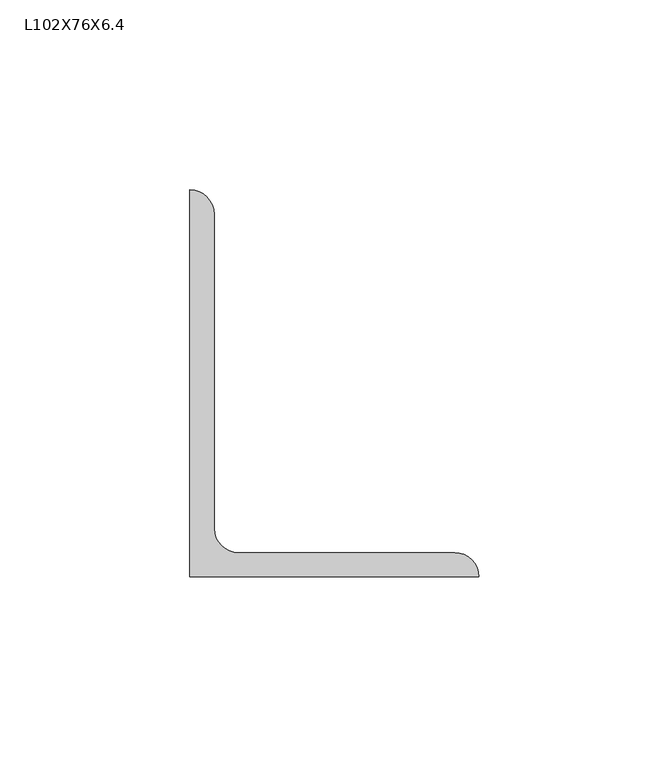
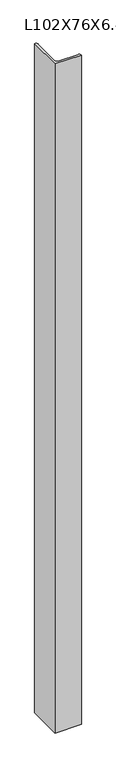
"""IFC4 building model written with IfcOpenShell, lengths in millimetres: column geometry, Уголок-Колонна : L102X76X6.4."""

from ifc_helpers import new_model, si_unit, point, frame_2d, origin, origin_with_axes, place, context, project, spatial, polyline, circle_curve, trimmed, segment, composite_curve, outline, extrude, source, transform, mapped, element, save


def l102x76x6_4_f19e9d96(model_context):
    return source(origin(), model_context, "Body", "SweptSolid", [
        extrude(outline(composite_curve([segment(polyline([(57.8, -31.0), (-18.4, -31.0), (-18.4, 71.0)]), True, "CONTINUOUS"), segment(trimmed(circle_curve(frame_2d((-18.4, 64.6)), 6.4), [point((-18.4, 71.0))], [point((-12.0, 64.6))], False, "CARTESIAN"), True, "CONTINUOUS"), segment(polyline([(-12.0, 64.6), (-12.0, -18.2)]), True, "CONTINUOUS"), segment(trimmed(circle_curve(frame_2d((-5.6, -18.2)), 6.4), [point((-12.0, -18.2))], [point((-5.6, -24.6))], True, "CARTESIAN"), True, "CONTINUOUS"), segment(polyline([(-5.6, -24.6), (51.4, -24.6)]), True, "CONTINUOUS"), segment(trimmed(circle_curve(frame_2d((51.4, -31.0)), 6.4), [point((51.4, -24.6))], [point((57.8, -31.0))], False, "CARTESIAN"), True, "CONTINUOUS")], self_intersect=False)), origin_with_axes(), (0.0, 0.0, 1.0), 2048.0),
    ])


if __name__ == "__main__":
    model = new_model("IFC4")
    model_context = context("Model", 3, world=origin())
    ifc_project = project(units=[si_unit("LENGTHUNIT", "METRE", prefix="MILLI")], contexts=[model_context])
    site = spatial("IfcSite", under=ifc_project)
    building = spatial("IfcBuilding", under=site)
    placement = place(None, origin())
    l102x76x6_4_shape = l102x76x6_4_f19e9d96(model_context)
    element("IfcColumn", 1, ObjectType="Уголок-Колонна : L102X76X6.4", at=placement, inside=building, context=model_context, shape_type="MappedRepresentation", body=[
        mapped(l102x76x6_4_shape, transform((0.0, 0.0, 0.0), x_axis=(1.0, 0.0, 0.0), y_axis=(0.0, 1.0, 0.0), z_axis=(0.0, 0.0, 1.0))),
    ])
    save(model, "model.ifc")
